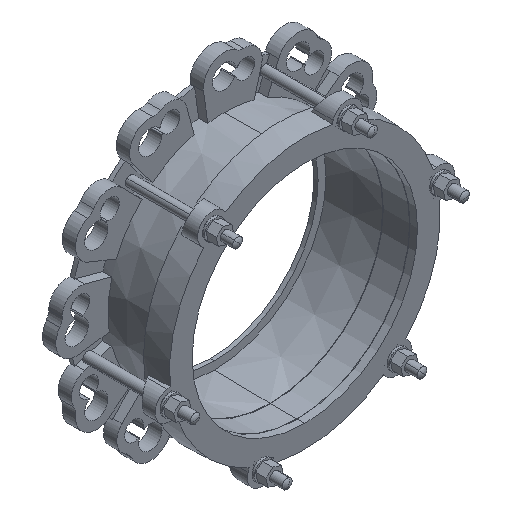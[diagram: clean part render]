
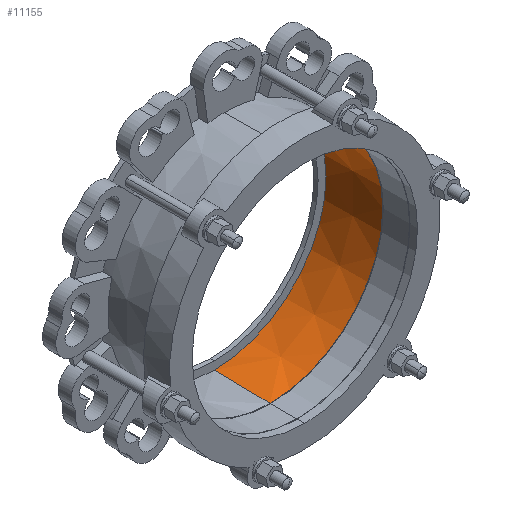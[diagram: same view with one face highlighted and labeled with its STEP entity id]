
A CAD part, isometric view. The second image highlights one B-rep face of the part: STEP entity #11155.
In plain terms, the highlighted conical face has half-angle 0.852 degrees and reference radius 135 mm.
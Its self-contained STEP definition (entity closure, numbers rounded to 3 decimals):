
#4477=CARTESIAN_POINT('',(0.,-5.,0.));
#4478=DIRECTION('',(0.,-1.,0.));
#4479=DIRECTION('',(0.,0.,-1.));
#4480=AXIS2_PLACEMENT_3D('',#4477,#4478,#4479);
#4482=DIRECTION('',(0.,-1.,-0.015));
#4483=VECTOR('',#4482,67.282);
#4484=CARTESIAN_POINT('',(0.,-5.,-134.5));
#4485=LINE('',#4484,#4483);
#4486=DIRECTION('',(0.,-1.,0.015));
#4487=VECTOR('',#4486,67.282);
#4488=CARTESIAN_POINT('',(0.,-5.,134.5));
#4489=LINE('',#4488,#4487);
#4508=CARTESIAN_POINT('',(0.,-72.275,0.));
#4509=DIRECTION('',(0.,-1.,0.));
#4510=DIRECTION('',(0.,0.,-1.));
#4511=AXIS2_PLACEMENT_3D('',#4508,#4509,#4510);
#4579=CARTESIAN_POINT('',(0.,-5.,-134.5));
#4580=CARTESIAN_POINT('',(0.,-72.275,-135.5));
#4581=VERTEX_POINT('',#4579);
#4582=VERTEX_POINT('',#4580);
#4599=CARTESIAN_POINT('',(0.,-5.,134.5));
#4600=CARTESIAN_POINT('',(0.,-72.275,135.5));
#4601=VERTEX_POINT('',#4599);
#4602=VERTEX_POINT('',#4600);
#11141=CARTESIAN_POINT('',(0.,-38.637,0.));
#11142=DIRECTION('',(0.,-1.,0.));
#11143=DIRECTION('',(0.,0.,1.));
#11144=AXIS2_PLACEMENT_3D('',#11141,#11142,#11143);
#11145=CONICAL_SURFACE('',#11144,135.,0.852);
#11147=ORIENTED_EDGE('',*,*,#11146,.F.);
#11148=ORIENTED_EDGE('',*,*,#11130,.T.);
#11150=ORIENTED_EDGE('',*,*,#11149,.T.);
#11152=ORIENTED_EDGE('',*,*,#11151,.F.);
#11153=EDGE_LOOP('',(#11147,#11148,#11150,#11152));
#11154=FACE_OUTER_BOUND('',#11153,.F.);
#11155=ADVANCED_FACE('',(#11154),#11145,.F.);
#4481=CIRCLE('',#4480,134.5);
#4512=CIRCLE('',#4511,135.5);
#11130=EDGE_CURVE('',#4581,#4601,#4481,.T.);
#11146=EDGE_CURVE('',#4581,#4582,#4485,.T.);
#11149=EDGE_CURVE('',#4601,#4602,#4489,.T.);
#11151=EDGE_CURVE('',#4582,#4602,#4512,.T.);
